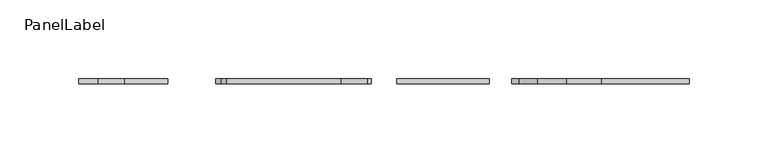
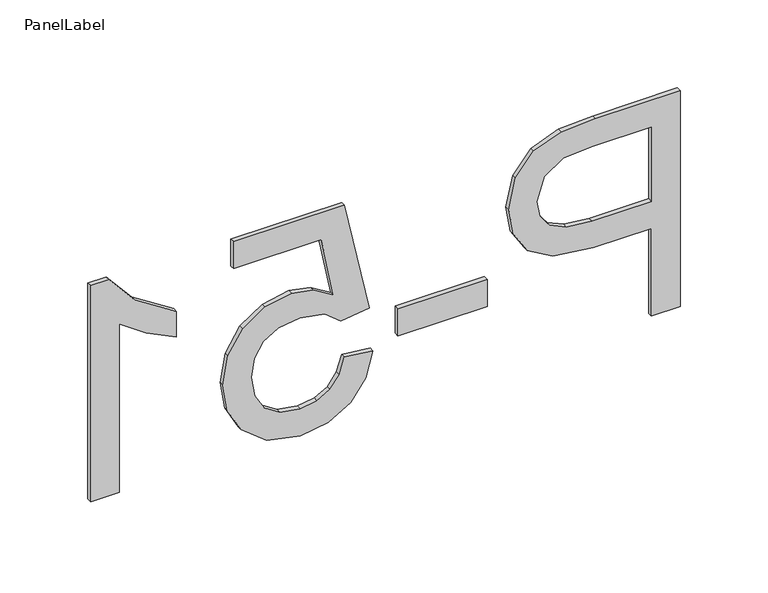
"""IFC4 building model written with IfcOpenShell, lengths in millimetres: fastener geometry, PanelLabel : Miranda."""

from ifc_helpers import new_model, si_unit, frame, origin, place, context, project, spatial, polyline, outline, extrude, source, transform, mapped, element, save


def panellabel_7068c47f(model_context):
    return source(origin(), model_context, "Body", "SweptSolid", [
        extrude(outline(polyline([(1310.9113766, 202.8092308), (1460.9667612, 202.8092308), (1460.9667612, 147.1978846), (1459.5380112, 124.7775), (1452.5224823, 106.5517788), (1438.0151747, 94.7371154), (1417.554742, 90.2676923), (1399.8693814, 93.2854688), (1385.1331073, 102.3387981), (1375.1868093, 119.2685697), (1371.8713766, 145.9156731), (1371.8713766, 184.0523077), (1310.9113766, 184.0523077), (1310.9113766, 202.8092308)]), holes=[polyline([(1390.6282997, 184.0523077), (1390.6282997, 144.8166346), (1392.3501266, 128.1845192), (1397.5156073, 117.1941346), (1405.8041891, 111.0669952), (1416.8953189, 109.0246154), (1432.4283958, 113.8420673), (1440.9276266, 126.4993269), (1442.2098381, 145.25625), (1442.2098381, 184.0523077), (1390.6282997, 184.0523077)])]), frame((0.0, 85.725, 0.0), z_axis=(0.0, 1.0, 0.0), x_axis=(0.0, 0.0, 1.0)), (0.0, 0.0, 1.0), 3.175),
        extrude(outline(polyline([(17.5846154, 88.9), (76.2, 88.9), (76.2, 85.725), (17.5846154, 85.725), (17.5846154, 88.9)])), frame((0.0, 0.0, 1355.4590689), z_axis=(0.0, 0.0, 1.0), x_axis=(1.0, 0.0, 0.0)), (0.0, 0.0, 1.0), 18.7569231),
        extrude(outline(polyline([(1350.7698381, 1.1723077), (1353.1144535, -17.5846154), (1341.8538886, -21.0282692), (1333.7896939, -27.0363462), (1328.9401867, -35.5813702), (1327.3236843, -46.6358654), (1329.5721338, -60.0807692), (1336.3174823, -70.1552885), (1346.7812444, -76.4472837), (1360.1849343, -78.5446154), (1372.8055593, -76.5800841), (1382.4587804, -70.6864904), (1388.5859198, -60.8180409), (1390.6282997, -46.9289423), (1387.3678189, -30.4616827), (1378.9052227, -19.9292308), (1381.2498381, -1.1723077), (1458.6221458, -17.5846154), (1458.6221458, -90.2676923), (1439.8652227, -90.2676923), (1439.8652227, -32.7513462), (1398.5413766, -24.7283654), (1406.6742612, -38.127476), (1409.3852227, -52.1676923), (1406.0239968, -69.6927764), (1395.9403189, -84.2412981), (1380.5720977, -94.0364784), (1361.357242, -97.3015385), (1342.6003189, -94.3616106), (1326.5543573, -85.5418269), (1313.0636602, -68.6532692), (1308.5667612, -46.5625962), (1311.4563165, -28.1399639), (1320.1249823, -13.4632212), (1333.5653069, -3.4024399), (1350.7698381, 1.1723077)])), frame((0.0, 85.725, 0.0), z_axis=(0.0, 1.0, 0.0), x_axis=(0.0, 0.0, 1.0)), (0.0, 0.0, 1.0), 3.175),
        extrude(outline(polyline([(1310.9113766, -184.0523077), (1310.9113766, -165.2953846), (1427.8490689, -165.2953846), (1415.1918093, -147.5275962), (1405.7217612, -127.7815385), (1423.452915, -127.7815385), (1441.0008958, -155.2758173), (1460.9667612, -171.9628846), (1460.9667612, -184.0523077), (1310.9113766, -184.0523077)])), frame((0.0, 85.725, 0.0), z_axis=(0.0, 1.0, 0.0), x_axis=(0.0, 0.0, 1.0)), (0.0, 0.0, 1.0), 3.175),
    ])


if __name__ == "__main__":
    model = new_model("IFC4")
    model_context = context("Model", 3, world=origin())
    ifc_project = project(units=[si_unit("LENGTHUNIT", "METRE", prefix="MILLI")], contexts=[model_context])
    site = spatial("IfcSite", under=ifc_project)
    building = spatial("IfcBuilding", under=site)
    placement = place(None, origin())
    panellabel_shape = panellabel_7068c47f(model_context)
    element("IfcFastener", 1, ObjectType="PanelLabel : Miranda", at=placement, inside=building, context=model_context, shape_type="MappedRepresentation", body=[
        mapped(panellabel_shape, transform((0.0, 0.0, 0.0), x_axis=(1.0, 0.0, 0.0), y_axis=(0.0, 1.0, 0.0), z_axis=(0.0, 0.0, 1.0))),
    ])
    save(model, "model.ifc")
